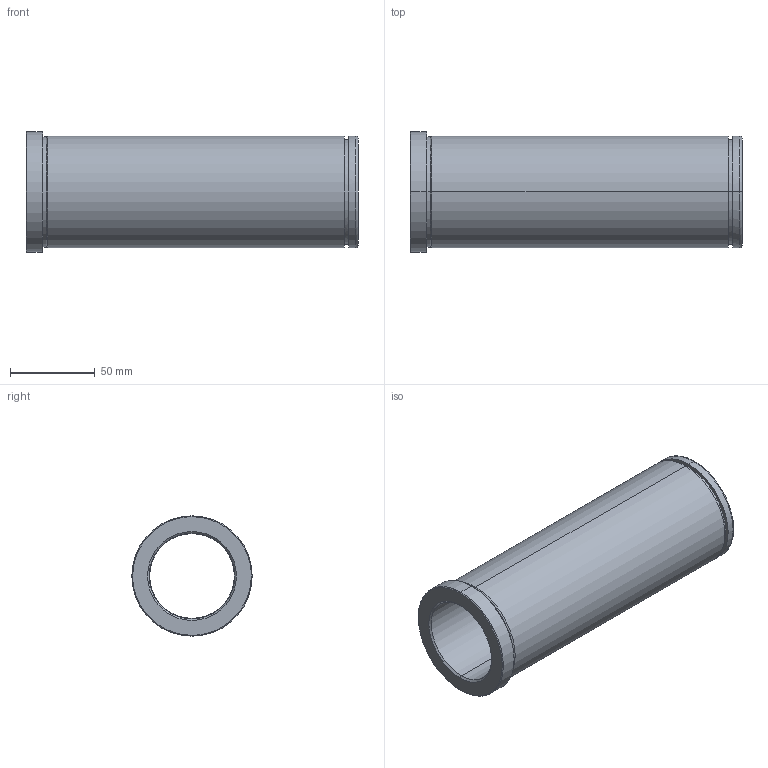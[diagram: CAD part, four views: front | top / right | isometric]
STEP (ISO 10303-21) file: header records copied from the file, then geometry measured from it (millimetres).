
FILE_DESCRIPTION(('CATIA V5 STEP Exchange'),'2;1');
FILE_NAME('C:\Users\Utente\Desktop\IO LAVORO\3D X SITO CF\X SITO\PLASTICA\553\553-50X196.stp','2021-06-08T18:12:41+00:00',('none'),('none'),'CATIA Version 5 Release 20 GA (IN-10)','CATIA V5 STEP AP203','none');
FILE_SCHEMA(('CONFIG_CONTROL_DESIGN'));
Length unit declared in the file: millimetre
Products named in the file (1): 553-50X196
Bounding box: 196 x 71 x 71 mm (x, y, z)
Volume: 286200.9 mm3; surface area: 76099 mm2
Topology: 1 solids, 1 shells, 32 faces, 102 edges, 76 vertices
Faces by surface type: cylinder 14, cone 8, plane 6, torus 4
Entity records: 1340 total; most frequent: CARTESIAN_POINT 395, ORIENTED_EDGE 204, DIRECTION 152, EDGE_CURVE 102, AXIS2_PLACEMENT_3D 99, VERTEX_POINT 76, CIRCLE 66, EDGE_LOOP 38
